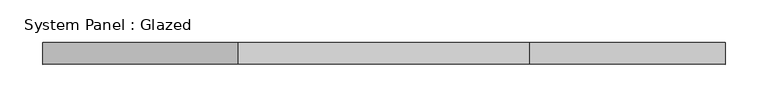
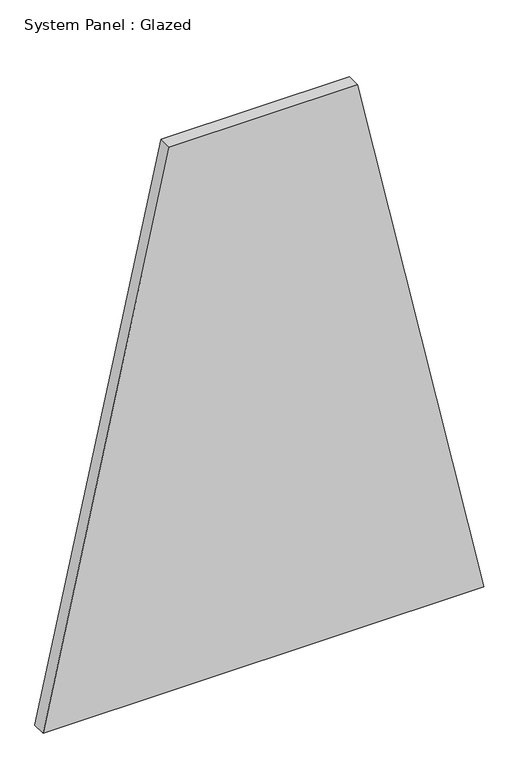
"""IFC4 building model written with IfcOpenShell, lengths in millimetres: plate geometry, System Panel : Glazed."""

from ifc_helpers import new_model, si_unit, frame, origin, place, context, project, spatial, polyline, outline, extrude, source, transform, mapped, element, save


def system_panel_glazed_bc119c3e(model_context):
    return source(origin(), model_context, "Body", "SweptSolid", [
        extrude(outline(polyline([(0.0, -399.7385444), (0.0, 399.7385444), (1041.9112286, 170.646354), (1041.9112286, -170.646354), (0.0, -399.7385444)])), frame((0.0, -44.45, 0.0), z_axis=(0.0, 1.0, 0.0), x_axis=(0.0, 0.0, 1.0)), (0.0, 0.0, 1.0), 25.4),
    ])


if __name__ == "__main__":
    model = new_model("IFC4")
    model_context = context("Model", 3, world=origin())
    ifc_project = project(units=[si_unit("LENGTHUNIT", "METRE", prefix="MILLI")], contexts=[model_context])
    site = spatial("IfcSite", under=ifc_project)
    building = spatial("IfcBuilding", under=site)
    placement = place(None, origin())
    system_panel_glazed_shape = system_panel_glazed_bc119c3e(model_context)
    element("IfcPlate", 1, ObjectType="System Panel : Glazed", at=placement, inside=building, context=model_context, shape_type="MappedRepresentation", body=[
        mapped(system_panel_glazed_shape, transform((0.0, 0.0, 0.0), x_axis=(1.0, 0.0, 0.0), y_axis=(0.0, 1.0, 0.0), z_axis=(0.0, 0.0, 1.0))),
    ])
    save(model, "model.ifc")
